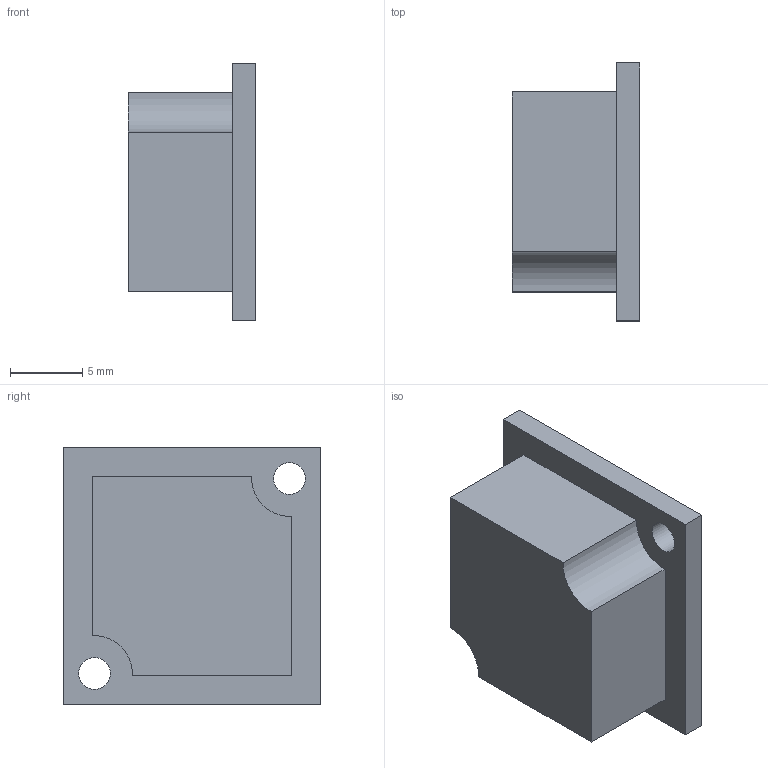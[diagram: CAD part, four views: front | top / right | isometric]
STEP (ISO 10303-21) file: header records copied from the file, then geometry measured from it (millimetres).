
FILE_DESCRIPTION(('Open CASCADE Model'),'2;1');
FILE_NAME('Open CASCADE Shape Model','2026-11-23T18:10:06',('Author'),( 'Open CASCADE'),'Open CASCADE STEP processor 8.0','build123d', 'Unknown');
FILE_SCHEMA(('AUTOMOTIVE_DESIGN { 1 0 10303 214 1 1 1 1 }'));
Length unit declared in the file: millimetre
Products named in the file (1): SOLID
Bounding box: 8.8 x 17.8 x 17.8 mm (x, y, z)
Volume: 1776.4 mm3; surface area: 1136 mm2
Topology: 1 solids, 1 shells, 15 faces, 36 edges, 24 vertices
Faces by surface type: plane 11, cylinder 4
Full cylindrical faces by diameter (mm): 2.2 x2
Entity records: 918 total; most frequent: CARTESIAN_POINT 172, DIRECTION 134, LINE 80, VECTOR 80, ORIENTED_EDGE 72, PCURVE 72, DEFINITIONAL_REPRESENTATION 72, EDGE_CURVE 36
